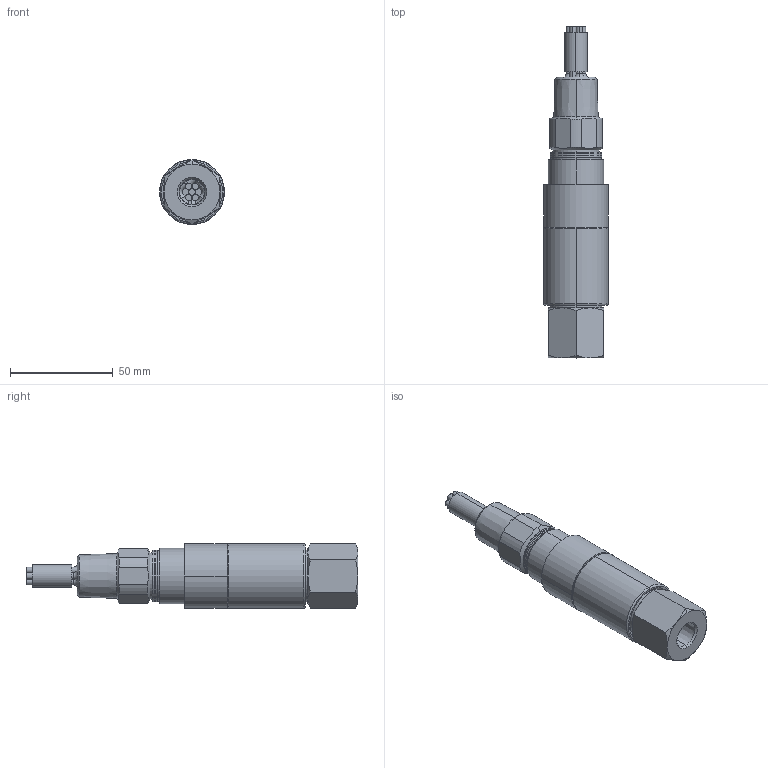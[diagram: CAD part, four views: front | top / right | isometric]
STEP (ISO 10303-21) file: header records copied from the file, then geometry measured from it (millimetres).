
FILE_DESCRIPTION (( 'STEP AP214' ), '1' );
FILE_NAME ('12SXXNP_6_9.STEP', '2025-04-02T15:11:04', ( '' ), ( '' ), 'SwSTEP 2.0', 'SolidWorks 2023', '' );
FILE_SCHEMA (( 'AUTOMOTIVE_DESIGN' ));
Length unit declared in the file: inch
Products named in the file (1): 12SXXNP_6_9
Bounding box: 31.56 x 161.42 x 31.56 mm (x, y, z)
Surface area: 18754.8 mm2 (no closed solid volume)
Topology: 0 solids, 9 shells, 136 faces, 326 edges, 208 vertices
Faces by surface type: cylinder 43, cone 37, plane 36, torus 16, bspline 4
Entity records: 4458 total; most frequent: CARTESIAN_POINT 1284, DIRECTION 704, ORIENTED_EDGE 622, EDGE_CURVE 326, AXIS2_PLACEMENT_3D 312, VERTEX_POINT 208, CIRCLE 179, EDGE_LOOP 153
